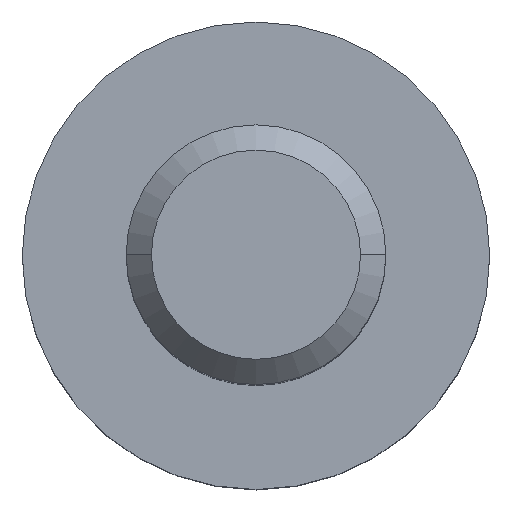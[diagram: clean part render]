
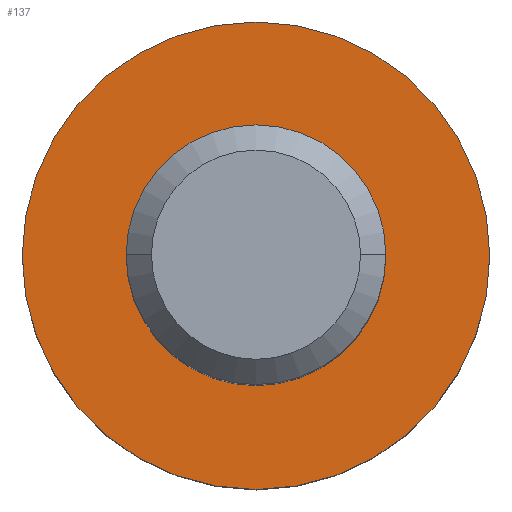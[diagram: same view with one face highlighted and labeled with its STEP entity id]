
A CAD part, top view. The second image highlights one B-rep face of the part: STEP entity #137.
In plain terms, the highlighted planar face has unit normal (0, 0, 1).
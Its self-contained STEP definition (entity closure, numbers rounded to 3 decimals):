
#91=FACE_BOUND('',#210,.F.);
#102=PLANE('',#618);
#137=ADVANCED_FACE('',(#91,#172),#102,.T.);
#172=FACE_OUTER_BOUND('',#211,.F.);
#210=EDGE_LOOP('',(#348,#349));
#211=EDGE_LOOP('',(#350,#351));
#348=ORIENTED_EDGE('',*,*,#429,.T.);
#349=ORIENTED_EDGE('',*,*,#428,.T.);
#350=ORIENTED_EDGE('',*,*,#475,.F.);
#351=ORIENTED_EDGE('',*,*,#468,.F.);
#428=EDGE_CURVE('',#540,#539,#484,.T.);
#429=EDGE_CURVE('',#539,#540,#485,.T.);
#468=EDGE_CURVE('',#517,#516,#502,.T.);
#475=EDGE_CURVE('',#516,#517,#507,.T.);
#484=CIRCLE('',#567,1.25);
#485=CIRCLE('',#568,1.25);
#502=CIRCLE('',#585,2.25);
#507=CIRCLE('',#590,2.25);
#516=VERTEX_POINT('',#813);
#517=VERTEX_POINT('',#814);
#539=VERTEX_POINT('',#836);
#540=VERTEX_POINT('',#837);
#567=AXIS2_PLACEMENT_3D('',#894,#660,#661);
#568=AXIS2_PLACEMENT_3D('',#895,#662,#663);
#585=AXIS2_PLACEMENT_3D('',#974,#710,#711);
#590=AXIS2_PLACEMENT_3D('',#981,#722,#723);
#618=AXIS2_PLACEMENT_3D('',#1009,#778,#779);
#660=DIRECTION('',(0.,0.,1.));
#661=DIRECTION('',(-1.,0.,0.));
#662=DIRECTION('',(0.,0.,1.));
#663=DIRECTION('',(1.,0.,0.));
#710=DIRECTION('',(0.,0.,1.));
#711=DIRECTION('',(1.,0.,0.));
#722=DIRECTION('',(0.,0.,1.));
#723=DIRECTION('',(-1.,0.,0.));
#778=DIRECTION('',(0.,0.,1.));
#779=DIRECTION('',(0.,1.,0.));
#813=CARTESIAN_POINT('',(21.757,17.305,-71.127));
#814=CARTESIAN_POINT('',(26.257,17.305,-71.127));
#836=CARTESIAN_POINT('',(25.257,17.305,-71.127));
#837=CARTESIAN_POINT('',(22.757,17.305,-71.127));
#894=CARTESIAN_POINT('',(24.007,17.305,-71.127));
#895=CARTESIAN_POINT('',(24.007,17.305,-71.127));
#974=CARTESIAN_POINT('',(24.007,17.305,-71.127));
#981=CARTESIAN_POINT('',(24.007,17.305,-71.127));
#1009=CARTESIAN_POINT('',(26.302,15.01,-71.127));
